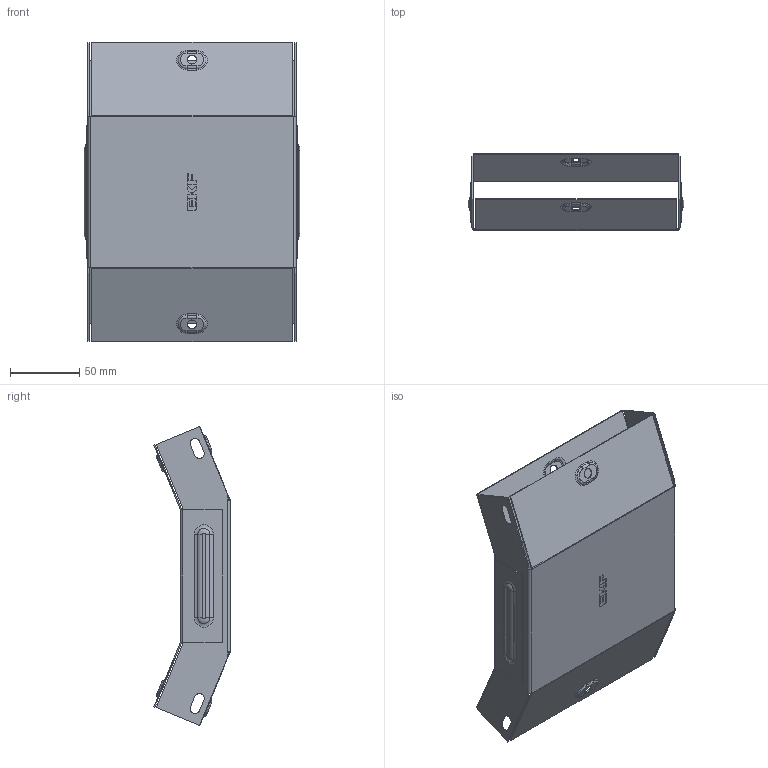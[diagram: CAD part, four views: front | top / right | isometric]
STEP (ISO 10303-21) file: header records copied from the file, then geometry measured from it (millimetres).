
FILE_DESCRIPTION (( 'STEP AP214' ), '1' );
FILE_NAME ('vi4535150_捘.STEP', '2019-06-10T08:29:29', ( '砐錪賧瘔蠈錪 Windows' ), ( '' ), 'SwSTEP 2.0', 'SolidWorks 2018', '' );
FILE_SCHEMA (( 'AUTOMOTIVE_DESIGN' ));
Length unit declared in the file: millimetre
Products named in the file (1): vi4535150_捘
Bounding box: 155.6 x 54.93 x 215.77 mm (x, y, z)
Volume: 65344 mm3; surface area: 165225.6 mm2
Topology: 2 solids, 2 shells, 416 faces, 1056 edges, 672 vertices
Faces by surface type: plane 222, cylinder 112, torus 64, bspline 18
Entity records: 13420 total; most frequent: CARTESIAN_POINT 3164, DIRECTION 2138, ORIENTED_EDGE 2112, EDGE_CURVE 1056, AXIS2_PLACEMENT_3D 719, VECTOR 700, LINE 700, VERTEX_POINT 672
